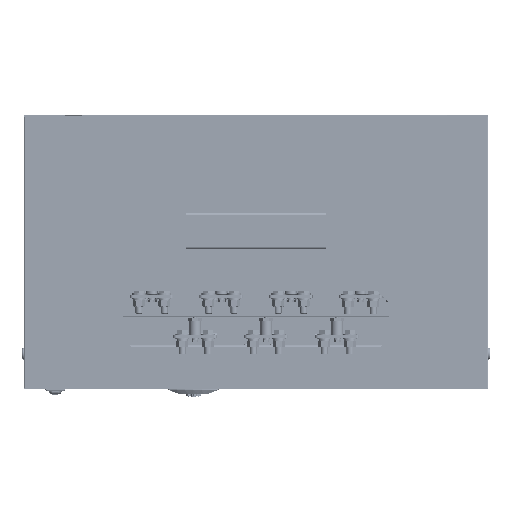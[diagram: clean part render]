
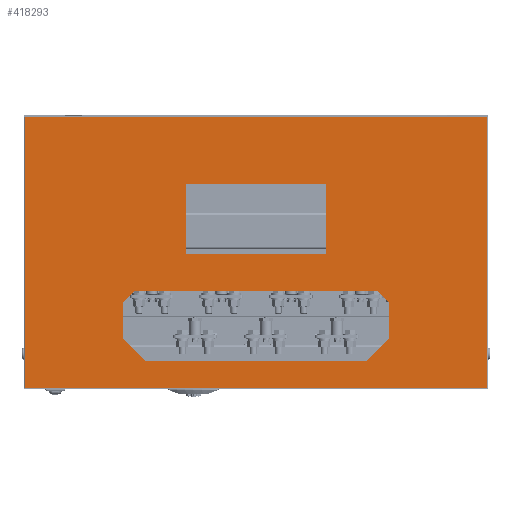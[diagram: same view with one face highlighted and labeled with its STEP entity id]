
A CAD part, front view. The second image highlights one B-rep face of the part: STEP entity #418293.
In plain terms, the highlighted planar face has unit normal (0, -1, 0).
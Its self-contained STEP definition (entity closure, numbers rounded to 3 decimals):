
#405142=DIRECTION('',(1.,0.,0.));
#405143=VECTOR('',#405142,795.);
#405144=CARTESIAN_POINT('',(-397.5,0.,-233.));
#405145=LINE('',#405144,#405143);
#405164=DIRECTION('',(0.,0.,-1.));
#405165=VECTOR('',#405164,466.);
#405166=CARTESIAN_POINT('',(-397.5,0.,233.));
#405167=LINE('',#405166,#405165);
#407208=DIRECTION('',(0.,0.,1.));
#407209=VECTOR('',#407208,466.);
#407210=CARTESIAN_POINT('',(397.5,0.,-233.));
#407211=LINE('',#407210,#407209);
#410202=DIRECTION('',(1.,0.,0.));
#410203=VECTOR('',#410202,795.);
#410204=CARTESIAN_POINT('',(-397.5,0.,233.));
#410205=LINE('',#410204,#410203);
#410206=DIRECTION('',(-1.,0.,0.));
#410207=VECTOR('',#410206,240.);
#410208=CARTESIAN_POINT('',(120.,0.,2.));
#410209=LINE('',#410208,#410207);
#410210=DIRECTION('',(0.,0.,-1.));
#410211=VECTOR('',#410210,120.);
#410212=CARTESIAN_POINT('',(-120.,0.,2.));
#410213=LINE('',#410212,#410211);
#410214=DIRECTION('',(1.,0.,0.));
#410215=VECTOR('',#410214,240.);
#410216=CARTESIAN_POINT('',(-120.,0.,-118.));
#410217=LINE('',#410216,#410215);
#410218=DIRECTION('',(0.,0.,1.));
#410219=VECTOR('',#410218,120.);
#410220=CARTESIAN_POINT('',(120.,0.,-118.));
#410221=LINE('',#410220,#410219);
#410222=DIRECTION('',(1.,0.,0.));
#410223=VECTOR('',#410222,420.);
#410224=CARTESIAN_POINT('',(-210.,0.,67.));
#410225=LINE('',#410224,#410223);
#410226=DIRECTION('',(0.707,0.,0.707));
#410227=VECTOR('',#410226,28.284);
#410228=CARTESIAN_POINT('',(210.,0.,67.));
#410229=LINE('',#410228,#410227);
#410230=DIRECTION('',(0.,0.,1.));
#410231=VECTOR('',#410230,60.);
#410232=CARTESIAN_POINT('',(230.,0.,87.));
#410233=LINE('',#410232,#410231);
#410234=DIRECTION('',(-0.707,0.,0.707));
#410235=VECTOR('',#410234,56.569);
#410236=CARTESIAN_POINT('',(230.,0.,147.));
#410237=LINE('',#410236,#410235);
#410238=DIRECTION('',(-1.,0.,0.));
#410239=VECTOR('',#410238,380.);
#410240=CARTESIAN_POINT('',(190.,0.,187.));
#410241=LINE('',#410240,#410239);
#410242=DIRECTION('',(-0.707,0.,-0.707));
#410243=VECTOR('',#410242,56.569);
#410244=CARTESIAN_POINT('',(-190.,0.,187.));
#410245=LINE('',#410244,#410243);
#410246=DIRECTION('',(0.,0.,-1.));
#410247=VECTOR('',#410246,60.);
#410248=CARTESIAN_POINT('',(-230.,0.,147.));
#410249=LINE('',#410248,#410247);
#410250=DIRECTION('',(0.707,0.,-0.707));
#410251=VECTOR('',#410250,28.284);
#410252=CARTESIAN_POINT('',(-230.,0.,87.));
#410253=LINE('',#410252,#410251);
#411342=CARTESIAN_POINT('',(230.,0.,87.));
#411343=VERTEX_POINT('',#411342);
#411344=CARTESIAN_POINT('',(230.,0.,147.));
#411345=VERTEX_POINT('',#411344);
#411346=CARTESIAN_POINT('',(210.,0.,67.));
#411347=VERTEX_POINT('',#411346);
#411348=CARTESIAN_POINT('',(-210.,0.,67.));
#411349=VERTEX_POINT('',#411348);
#411350=CARTESIAN_POINT('',(-230.,0.,87.));
#411351=VERTEX_POINT('',#411350);
#411352=CARTESIAN_POINT('',(-230.,0.,147.));
#411353=VERTEX_POINT('',#411352);
#411354=CARTESIAN_POINT('',(-397.5,0.,-233.));
#411355=CARTESIAN_POINT('',(397.5,0.,-233.));
#411356=VERTEX_POINT('',#411354);
#411357=VERTEX_POINT('',#411355);
#411358=CARTESIAN_POINT('',(-397.5,0.,233.));
#411359=VERTEX_POINT('',#411358);
#411360=CARTESIAN_POINT('',(397.5,0.,233.));
#411361=VERTEX_POINT('',#411360);
#411362=CARTESIAN_POINT('',(120.,0.,2.));
#411363=CARTESIAN_POINT('',(-120.,0.,2.));
#411364=VERTEX_POINT('',#411362);
#411365=VERTEX_POINT('',#411363);
#411366=CARTESIAN_POINT('',(-120.,0.,-118.));
#411367=VERTEX_POINT('',#411366);
#411368=CARTESIAN_POINT('',(120.,0.,-118.));
#411369=VERTEX_POINT('',#411368);
#411370=CARTESIAN_POINT('',(190.,0.,187.));
#411371=VERTEX_POINT('',#411370);
#411372=CARTESIAN_POINT('',(-190.,0.,187.));
#411373=VERTEX_POINT('',#411372);
#418254=CARTESIAN_POINT('',(400.,0.,-218.));
#418255=DIRECTION('',(0.,1.,0.));
#418256=DIRECTION('',(-1.,0.,0.));
#418257=AXIS2_PLACEMENT_3D('',#418254,#418255,#418256);
#418258=PLANE('',#418257);
#418259=ORIENTED_EDGE('',*,*,#413410,.F.);
#418260=ORIENTED_EDGE('',*,*,#413441,.F.);
#418261=ORIENTED_EDGE('',*,*,#414691,.T.);
#418262=ORIENTED_EDGE('',*,*,#414721,.F.);
#418263=EDGE_LOOP('',(#418259,#418260,#418261,#418262));
#418264=FACE_OUTER_BOUND('',#418263,.F.);
#418266=ORIENTED_EDGE('',*,*,#418265,.T.);
#418268=ORIENTED_EDGE('',*,*,#418267,.T.);
#418270=ORIENTED_EDGE('',*,*,#418269,.T.);
#418272=ORIENTED_EDGE('',*,*,#418271,.T.);
#418273=EDGE_LOOP('',(#418266,#418268,#418270,#418272));
#418274=FACE_BOUND('',#418273,.F.);
#418276=ORIENTED_EDGE('',*,*,#418275,.T.);
#418278=ORIENTED_EDGE('',*,*,#418277,.T.);
#418280=ORIENTED_EDGE('',*,*,#418279,.T.);
#418282=ORIENTED_EDGE('',*,*,#418281,.T.);
#418284=ORIENTED_EDGE('',*,*,#418283,.T.);
#418286=ORIENTED_EDGE('',*,*,#418285,.T.);
#418288=ORIENTED_EDGE('',*,*,#418287,.T.);
#418290=ORIENTED_EDGE('',*,*,#418289,.T.);
#418291=EDGE_LOOP('',(#418276,#418278,#418280,#418282,#418284,#418286,#418288,
#418290));
#418292=FACE_BOUND('',#418291,.F.);
#413410=EDGE_CURVE('',#411356,#411357,#405145,.T.);
#413441=EDGE_CURVE('',#411359,#411356,#405167,.T.);
#414691=EDGE_CURVE('',#411359,#411361,#410205,.T.);
#414721=EDGE_CURVE('',#411357,#411361,#407211,.T.);
#418265=EDGE_CURVE('',#411364,#411365,#410209,.T.);
#418267=EDGE_CURVE('',#411365,#411367,#410213,.T.);
#418269=EDGE_CURVE('',#411367,#411369,#410217,.T.);
#418271=EDGE_CURVE('',#411369,#411364,#410221,.T.);
#418275=EDGE_CURVE('',#411349,#411347,#410225,.T.);
#418277=EDGE_CURVE('',#411347,#411343,#410229,.T.);
#418279=EDGE_CURVE('',#411343,#411345,#410233,.T.);
#418281=EDGE_CURVE('',#411345,#411371,#410237,.T.);
#418283=EDGE_CURVE('',#411371,#411373,#410241,.T.);
#418285=EDGE_CURVE('',#411373,#411353,#410245,.T.);
#418287=EDGE_CURVE('',#411353,#411351,#410249,.T.);
#418289=EDGE_CURVE('',#411351,#411349,#410253,.T.);
#418293=ADVANCED_FACE('',(#418264,#418274,#418292),#418258,.F.);
